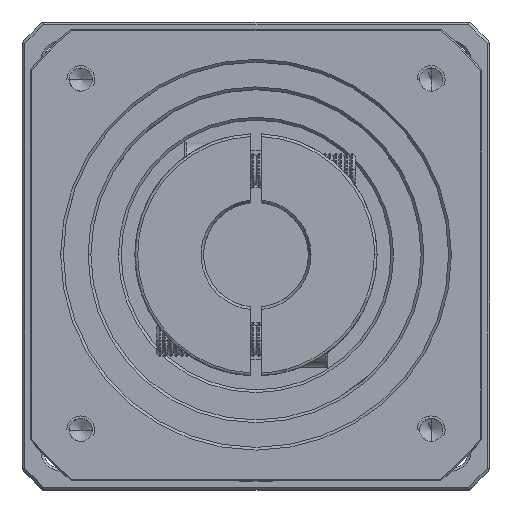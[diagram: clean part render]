
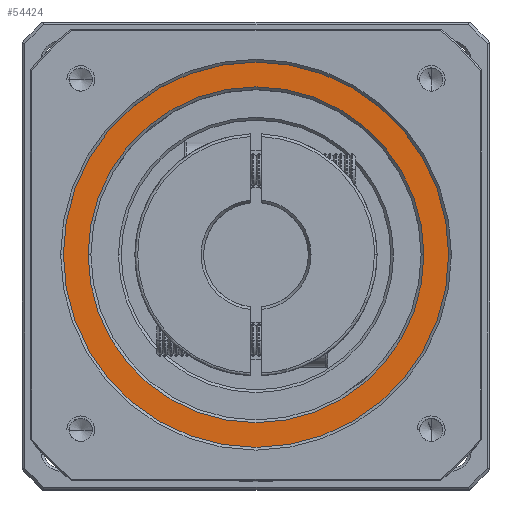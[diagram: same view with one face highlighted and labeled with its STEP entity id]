
A CAD part, top view. The second image highlights one B-rep face of the part: STEP entity #54424.
In plain terms, the highlighted planar face has unit normal (0, 0, 1).
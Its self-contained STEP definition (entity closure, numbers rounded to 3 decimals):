
#5002 = ORIENTED_EDGE ( 'NONE', *, *, #15626, .T. ) ;
#5991 = AXIS2_PLACEMENT_3D ( 'NONE', #37622, #100208, #46543 ) ;
#10097 = EDGE_CURVE ( 'NONE', #63161, #17267, #109728, .T. ) ;
#11142 = DIRECTION ( 'NONE',  ( 0., 0., 1. ) ) ;
#11456 = CARTESIAN_POINT ( 'NONE',  ( -119.068, 35.876, 21.012 ) ) ;
#11838 = VERTEX_POINT ( 'NONE', #11456 ) ;
#13408 = CARTESIAN_POINT ( 'NONE',  ( -84.068, 35.876, 21.012 ) ) ;
#15626 = EDGE_CURVE ( 'NONE', #105708, #11838, #95852, .T. ) ;
#17267 = VERTEX_POINT ( 'NONE', #52264 ) ;
#19097 = CARTESIAN_POINT ( 'NONE',  ( -84.068, 35.876, 21.012 ) ) ;
#21927 = CARTESIAN_POINT ( 'NONE',  ( -114.568, 35.876, 21.012 ) ) ;
#22384 = DIRECTION ( 'NONE',  ( 1., 0., 0. ) ) ;
#23804 = AXIS2_PLACEMENT_3D ( 'NONE', #19097, #81818, #28182 ) ;
#23829 = FACE_OUTER_BOUND ( 'NONE', #77270, .T. ) ;
#26002 = ORIENTED_EDGE ( 'NONE', *, *, #106866, .T. ) ;
#28182 = DIRECTION ( 'NONE',  ( 1., 0., 0. ) ) ;
#37622 = CARTESIAN_POINT ( 'NONE',  ( -84.068, 35.876, 21.012 ) ) ;
#39176 = DIRECTION ( 'NONE',  ( 0., 0., 1. ) ) ;
#46543 = DIRECTION ( 'NONE',  ( 1., 0., 0. ) ) ;
#52264 = CARTESIAN_POINT ( 'NONE',  ( -53.568, 35.876, 21.012 ) ) ;
#54424 = ADVANCED_FACE ( 'NONE', ( #23829, #71495 ), #93657, .T. ) ;
#56964 = CIRCLE ( 'NONE', #80672, 35. ) ;
#63161 = VERTEX_POINT ( 'NONE', #21927 ) ;
#64827 = CARTESIAN_POINT ( 'NONE',  ( -84.068, 35.876, 21.012 ) ) ;
#65679 = CARTESIAN_POINT ( 'NONE',  ( -49.068, 35.876, 21.012 ) ) ;
#67556 = AXIS2_PLACEMENT_3D ( 'NONE', #64827, #11142, #73824 ) ;
#71495 = FACE_BOUND ( 'NONE', #86045, .T. ) ;
#73824 = DIRECTION ( 'NONE',  ( 1., 0., 0. ) ) ;
#76061 = DIRECTION ( 'NONE',  ( 0., 0., 1. ) ) ;
#77270 = EDGE_LOOP ( 'NONE', ( #5002, #26002 ) ) ;
#77815 = ORIENTED_EDGE ( 'NONE', *, *, #10097, .T. ) ;
#80672 = AXIS2_PLACEMENT_3D ( 'NONE', #92763, #39176, #101778 ) ;
#81818 = DIRECTION ( 'NONE',  ( 0., 0., -1. ) ) ;
#86045 = EDGE_LOOP ( 'NONE', ( #110030, #77815 ) ) ;
#86676 = CIRCLE ( 'NONE', #23804, 30.5 ) ;
#87336 = AXIS2_PLACEMENT_3D ( 'NONE', #13408, #76061, #22384 ) ;
#92763 = CARTESIAN_POINT ( 'NONE',  ( -84.068, 35.876, 21.012 ) ) ;
#93657 = PLANE ( 'NONE',  #87336 ) ;
#95328 = EDGE_CURVE ( 'NONE', #17267, #63161, #86676, .T. ) ;
#95852 = CIRCLE ( 'NONE', #67556, 35. ) ;
#100208 = DIRECTION ( 'NONE',  ( 0., 0., -1. ) ) ;
#101778 = DIRECTION ( 'NONE',  ( 1., 0., 0. ) ) ;
#105708 = VERTEX_POINT ( 'NONE', #65679 ) ;
#106866 = EDGE_CURVE ( 'NONE', #11838, #105708, #56964, .T. ) ;
#109728 = CIRCLE ( 'NONE', #5991, 30.5 ) ;
#110030 = ORIENTED_EDGE ( 'NONE', *, *, #95328, .T. ) ;
